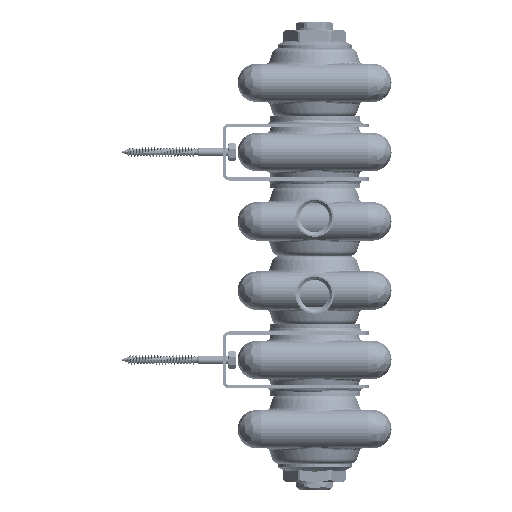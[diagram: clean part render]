
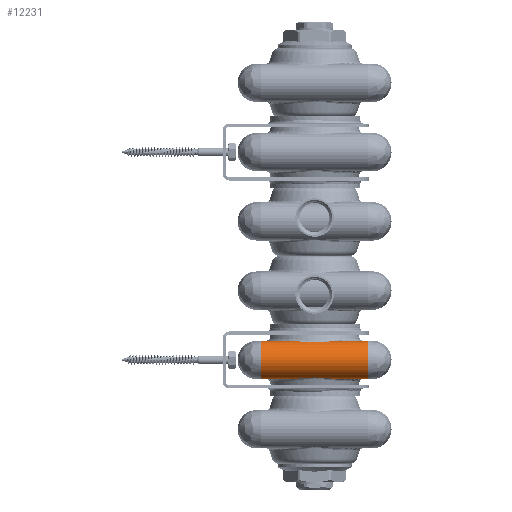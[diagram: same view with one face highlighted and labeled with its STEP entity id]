
A CAD part, front view. The second image highlights one B-rep face of the part: STEP entity #12231.
In plain terms, the highlighted cylindrical face has radius 12.5 mm (diameter 25 mm), a partial arc.
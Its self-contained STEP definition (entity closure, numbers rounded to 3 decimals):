
#3648=LINE('',#153107,#5807);
#3649=LINE('',#153111,#5808);
#3650=LINE('',#153112,#5809);
#3651=LINE('',#153116,#5810);
#5807=VECTOR('',#62765,1.);
#5808=VECTOR('',#62768,1.);
#5809=VECTOR('',#62769,1.);
#5810=VECTOR('',#62772,1.);
#7261=CYLINDRICAL_SURFACE('',#53973,12.5);
#9286=B_SPLINE_CURVE_WITH_KNOTS('',3,(#152058,#152059,#152060,#152061,#152062,
#152063,#152064,#152065,#152066,#152067),.UNSPECIFIED.,.F.,.F.,(4,2,2,2,
4),(0.,0.25,0.375,0.5,1.),.UNSPECIFIED.);
#9287=B_SPLINE_CURVE_WITH_KNOTS('',3,(#152136,#152137,#152138,#152139,#152140,
#152141,#152142,#152143,#152144,#152145),.UNSPECIFIED.,.F.,.F.,(4,2,2,2,
4),(0.,0.25,0.375,0.5,1.),.UNSPECIFIED.);
#9288=B_SPLINE_CURVE_WITH_KNOTS('',3,(#152229,#152230,#152231,#152232,#152233,
#152234,#152235,#152236,#152237,#152238),.UNSPECIFIED.,.F.,.F.,(4,2,2,2,
4),(0.,0.25,0.375,0.5,1.),.UNSPECIFIED.);
#9291=B_SPLINE_CURVE_WITH_KNOTS('',3,(#152371,#152372,#152373,#152374,#152375,
#152376,#152377,#152378,#152379,#152380),.UNSPECIFIED.,.F.,.F.,(4,2,2,2,
4),(0.,0.25,0.375,0.5,1.),.UNSPECIFIED.);
#12231=ADVANCED_FACE('',(#16199),#7261,.T.);
#16199=FACE_OUTER_BOUND('',#19477,.T.);
#19477=EDGE_LOOP('',(#30374,#30375,#30376,#30377,#30378,#30379,#30380,#30381,
#30382,#30383));
#30374=ORIENTED_EDGE('',*,*,#45792,.F.);
#30375=ORIENTED_EDGE('',*,*,#45793,.F.);
#30376=ORIENTED_EDGE('',*,*,#45794,.F.);
#30377=ORIENTED_EDGE('',*,*,#45753,.T.);
#30378=ORIENTED_EDGE('',*,*,#45762,.T.);
#30379=ORIENTED_EDGE('',*,*,#45795,.F.);
#30380=ORIENTED_EDGE('',*,*,#45796,.F.);
#30381=ORIENTED_EDGE('',*,*,#45797,.F.);
#30382=ORIENTED_EDGE('',*,*,#45750,.T.);
#30383=ORIENTED_EDGE('',*,*,#45748,.T.);
#39174=VERTEX_POINT('',#152057);
#39175=VERTEX_POINT('',#152068);
#39176=VERTEX_POINT('',#152146);
#39177=VERTEX_POINT('',#152227);
#39179=VERTEX_POINT('',#152239);
#39183=VERTEX_POINT('',#152370);
#39200=VERTEX_POINT('',#153108);
#39201=VERTEX_POINT('',#153110);
#39202=VERTEX_POINT('',#153113);
#39203=VERTEX_POINT('',#153115);
#45748=EDGE_CURVE('',#39175,#39174,#9286,.T.);
#45750=EDGE_CURVE('',#39176,#39175,#9287,.T.);
#45753=EDGE_CURVE('',#39179,#39177,#9288,.T.);
#45762=EDGE_CURVE('',#39177,#39183,#9291,.T.);
#45792=EDGE_CURVE('',#39200,#39174,#3648,.T.);
#45793=EDGE_CURVE('',#39201,#39200,#50204,.T.);
#45794=EDGE_CURVE('',#39179,#39201,#3649,.T.);
#45795=EDGE_CURVE('',#39202,#39183,#3650,.T.);
#45796=EDGE_CURVE('',#39203,#39202,#50205,.T.);
#45797=EDGE_CURVE('',#39176,#39203,#3651,.T.);
#50204=CIRCLE('',#53971,12.5);
#50205=CIRCLE('',#53972,12.5);
#53971=AXIS2_PLACEMENT_3D('',#153109,#62766,#62767);
#53972=AXIS2_PLACEMENT_3D('',#153114,#62770,#62771);
#53973=AXIS2_PLACEMENT_3D('',#153117,#62773,#62774);
#62765=DIRECTION('',(1.,0.,0.));
#62766=DIRECTION('',(-1.,0.,0.));
#62767=DIRECTION('',(0.,0.,-1.));
#62768=DIRECTION('',(-1.,0.,0.));
#62769=DIRECTION('',(-1.,0.,0.));
#62770=DIRECTION('',(1.,0.,0.));
#62771=DIRECTION('',(0.,0.,1.));
#62772=DIRECTION('',(1.,0.,0.));
#62773=DIRECTION('',(-1.,0.,0.));
#62774=DIRECTION('',(0.,0.,1.));
#152057=CARTESIAN_POINT('',(32.655,12.5,1455.));
#152058=CARTESIAN_POINT('',(50.,7.375,1453.901));
#152059=CARTESIAN_POINT('',(48.519,7.376,1453.902));
#152060=CARTESIAN_POINT('',(47.027,7.488,1453.954));
#152061=CARTESIAN_POINT('',(44.771,7.825,1454.094));
#152062=CARTESIAN_POINT('',(44.017,7.967,1454.15));
#152063=CARTESIAN_POINT('',(42.501,8.309,1454.278));
#152064=CARTESIAN_POINT('',(41.694,8.524,1454.353));
#152065=CARTESIAN_POINT('',(38.107,9.613,1454.696));
#152066=CARTESIAN_POINT('',(35.333,10.869,1455.));
#152067=CARTESIAN_POINT('',(32.655,12.5,1455.));
#152068=CARTESIAN_POINT('',(50.,7.375,1453.901));
#152136=CARTESIAN_POINT('',(67.345,12.5,1455.));
#152137=CARTESIAN_POINT('',(65.999,11.682,1455.));
#152138=CARTESIAN_POINT('',(64.633,10.957,1454.921));
#152139=CARTESIAN_POINT('',(62.552,10.017,1454.755));
#152140=CARTESIAN_POINT('',(61.853,9.728,1454.692));
#152141=CARTESIAN_POINT('',(60.445,9.199,1454.559));
#152142=CARTESIAN_POINT('',(59.786,8.974,1454.495));
#152143=CARTESIAN_POINT('',(55.962,7.813,1454.129));
#152144=CARTESIAN_POINT('',(52.955,7.377,1453.902));
#152145=CARTESIAN_POINT('',(50.,7.375,1453.901));
#152146=CARTESIAN_POINT('',(67.345,12.5,1455.));
#152227=CARTESIAN_POINT('',(50.,7.375,1431.099));
#152229=CARTESIAN_POINT('',(32.655,12.5,1430.));
#152230=CARTESIAN_POINT('',(33.992,11.685,1430.));
#152231=CARTESIAN_POINT('',(35.354,10.96,1430.079));
#152232=CARTESIAN_POINT('',(37.435,10.02,1430.244));
#152233=CARTESIAN_POINT('',(38.134,9.731,1430.308));
#152234=CARTESIAN_POINT('',(39.546,9.2,1430.44));
#152235=CARTESIAN_POINT('',(40.22,8.97,1430.506));
#152236=CARTESIAN_POINT('',(43.997,7.824,1430.868));
#152237=CARTESIAN_POINT('',(47.005,7.387,1431.093));
#152238=CARTESIAN_POINT('',(50.,7.375,1431.099));
#152239=CARTESIAN_POINT('',(32.655,12.5,1430.));
#152370=CARTESIAN_POINT('',(67.345,12.5,1430.));
#152371=CARTESIAN_POINT('',(50.,7.375,1431.099));
#152372=CARTESIAN_POINT('',(51.496,7.38,1431.096));
#152373=CARTESIAN_POINT('',(52.996,7.493,1431.044));
#152374=CARTESIAN_POINT('',(55.251,7.831,1430.904));
#152375=CARTESIAN_POINT('',(56.004,7.971,1430.848));
#152376=CARTESIAN_POINT('',(57.51,8.311,1430.722));
#152377=CARTESIAN_POINT('',(58.3,8.52,1430.648));
#152378=CARTESIAN_POINT('',(61.899,9.614,1430.303));
#152379=CARTESIAN_POINT('',(64.674,10.87,1430.));
#152380=CARTESIAN_POINT('',(67.345,12.5,1430.));
#153107=CARTESIAN_POINT('',(15.5,12.5,1455.));
#153108=CARTESIAN_POINT('',(15.5,12.5,1455.));
#153109=CARTESIAN_POINT('',(15.5,12.5,1442.5));
#153110=CARTESIAN_POINT('',(15.5,12.5,1430.));
#153111=CARTESIAN_POINT('',(32.655,12.5,1430.));
#153112=CARTESIAN_POINT('',(84.5,12.5,1430.));
#153113=CARTESIAN_POINT('',(84.5,12.5,1430.));
#153114=CARTESIAN_POINT('',(84.5,12.5,1442.5));
#153115=CARTESIAN_POINT('',(84.5,12.5,1455.));
#153116=CARTESIAN_POINT('',(67.345,12.5,1455.));
#153117=CARTESIAN_POINT('',(84.5,12.5,1442.5));
